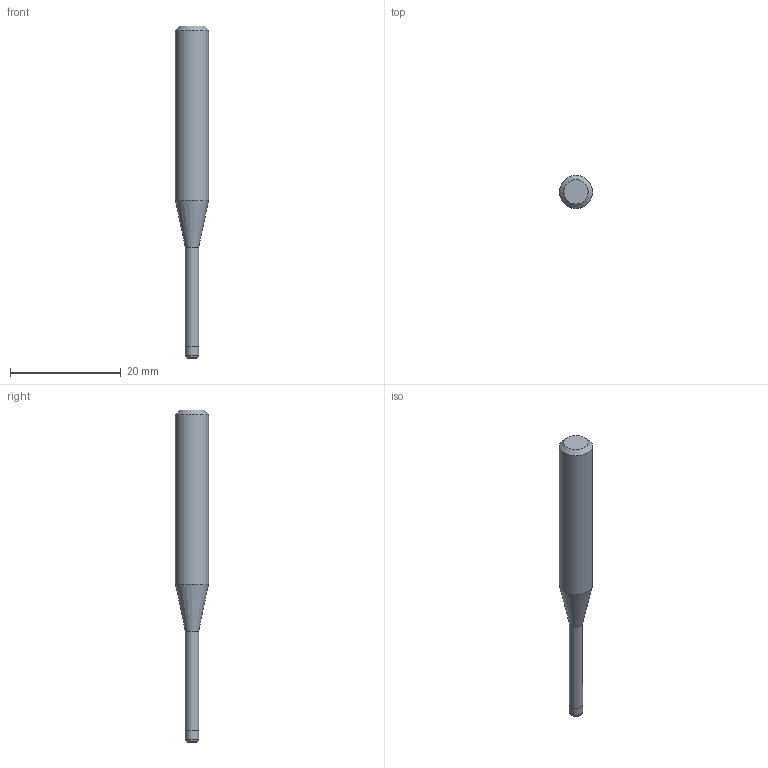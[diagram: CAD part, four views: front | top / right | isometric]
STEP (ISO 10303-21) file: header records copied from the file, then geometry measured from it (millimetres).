
FILE_DESCRIPTION((''),'2;1');
FILE_NAME('C:\Users\nsx150\AppData\Local\Temp\Mastercam 2021\17T8Q8S9EB\TEMP.step','2021-04-21T14:38:55',(''),(''),'STEP Write','Mastercam 2021 ... CNC Software, Inc.','');
FILE_SCHEMA(('AUTOMOTIVE_DESIGN'));
Length unit declared in the file: millimetre
Products named in the file (1): None
Bounding box: 6 x 6 x 60 mm (x, y, z)
Volume: 1100.2 mm3; surface area: 890.3 mm2
Topology: 2 solids, 2 shells, 10 faces, 14 edges, 8 vertices
Faces by surface type: plane 4, cylinder 3, cone 2, torus 1
Full cylindrical faces by diameter (mm): 2.39 x1, 2.5 x1, 6 x1
Entity records: 232 total; most frequent: DIRECTION 40, CARTESIAN_POINT 28, AXIS2_PLACEMENT_3D 20, ORIENTED_EDGE 16, EDGE_LOOP 16, STYLED_ITEM 13, ADVANCED_FACE 10, FACE_BOUND 10
